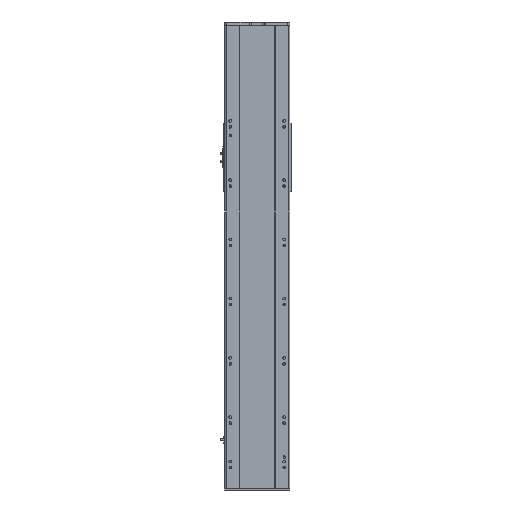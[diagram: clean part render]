
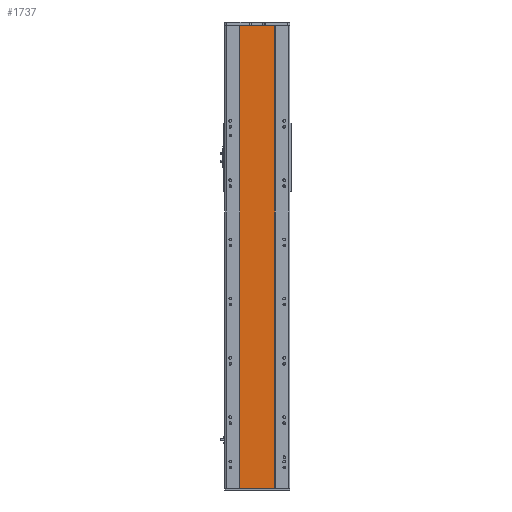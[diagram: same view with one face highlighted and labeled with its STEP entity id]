
A CAD part, front view. The second image highlights one B-rep face of the part: STEP entity #1737.
In plain terms, the highlighted planar face has unit normal (0, -1, 0).
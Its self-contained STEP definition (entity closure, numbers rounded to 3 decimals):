
#1010 = LINE ( 'NONE', #28163, #5158 ) ;
#1028 = EDGE_CURVE ( 'NONE', #19592, #25233, #21078, .T. ) ;
#1737 = ADVANCED_FACE ( 'NONE', ( #7029 ), #25982, .F. ) ;
#2046 = CARTESIAN_POINT ( 'NONE',  ( -59., 1., 780.5 ) ) ;
#2605 = VECTOR ( 'NONE', #36493, 1000. ) ;
#5060 = VERTEX_POINT ( 'NONE', #20440 ) ;
#5158 = VECTOR ( 'NONE', #33596, 1000. ) ;
#5208 = VECTOR ( 'NONE', #29498, 1000. ) ;
#6168 = EDGE_CURVE ( 'NONE', #19592, #33447, #34241, .T. ) ;
#7029 = FACE_OUTER_BOUND ( 'NONE', #14149, .T. ) ;
#9273 = EDGE_CURVE ( 'NONE', #33447, #5060, #1010, .T. ) ;
#10063 = LINE ( 'NONE', #11579, #2605 ) ;
#11579 = CARTESIAN_POINT ( 'NONE',  ( 59., 1., 780.5 ) ) ;
#11686 = AXIS2_PLACEMENT_3D ( 'NONE', #23237, #17096, #20257 ) ;
#11843 = CARTESIAN_POINT ( 'NONE',  ( -59., 1., -780.5 ) ) ;
#14149 = EDGE_LOOP ( 'NONE', ( #27139, #29592, #37136, #30711 ) ) ;
#14740 = CARTESIAN_POINT ( 'NONE',  ( -59., 1., 780.5 ) ) ;
#17096 = DIRECTION ( 'NONE',  ( 0., 1., 0. ) ) ;
#17437 = CARTESIAN_POINT ( 'NONE',  ( -59., 1., 780.5 ) ) ;
#19171 = CARTESIAN_POINT ( 'NONE',  ( 59., 1., 780.5 ) ) ;
#19592 = VERTEX_POINT ( 'NONE', #17437 ) ;
#20257 = DIRECTION ( 'NONE',  ( -1., 0., 0. ) ) ;
#20440 = CARTESIAN_POINT ( 'NONE',  ( 59., 1., -780.5 ) ) ;
#21078 = LINE ( 'NONE', #14740, #5208 ) ;
#22829 = DIRECTION ( 'NONE',  ( 0., 0., -1. ) ) ;
#23237 = CARTESIAN_POINT ( 'NONE',  ( -59., 1., 780.5 ) ) ;
#23415 = EDGE_CURVE ( 'NONE', #25233, #5060, #10063, .T. ) ;
#25233 = VERTEX_POINT ( 'NONE', #19171 ) ;
#25982 = PLANE ( 'NONE',  #11686 ) ;
#27139 = ORIENTED_EDGE ( 'NONE', *, *, #9273, .T. ) ;
#28163 = CARTESIAN_POINT ( 'NONE',  ( -59., 1., -780.5 ) ) ;
#29498 = DIRECTION ( 'NONE',  ( 1., 0., 0. ) ) ;
#29592 = ORIENTED_EDGE ( 'NONE', *, *, #23415, .F. ) ;
#30711 = ORIENTED_EDGE ( 'NONE', *, *, #6168, .T. ) ;
#33447 = VERTEX_POINT ( 'NONE', #11843 ) ;
#33596 = DIRECTION ( 'NONE',  ( 1., 0., 0. ) ) ;
#34241 = LINE ( 'NONE', #2046, #36088 ) ;
#36088 = VECTOR ( 'NONE', #22829, 1000. ) ;
#36493 = DIRECTION ( 'NONE',  ( 0., 0., -1. ) ) ;
#37136 = ORIENTED_EDGE ( 'NONE', *, *, #1028, .F. ) ;
